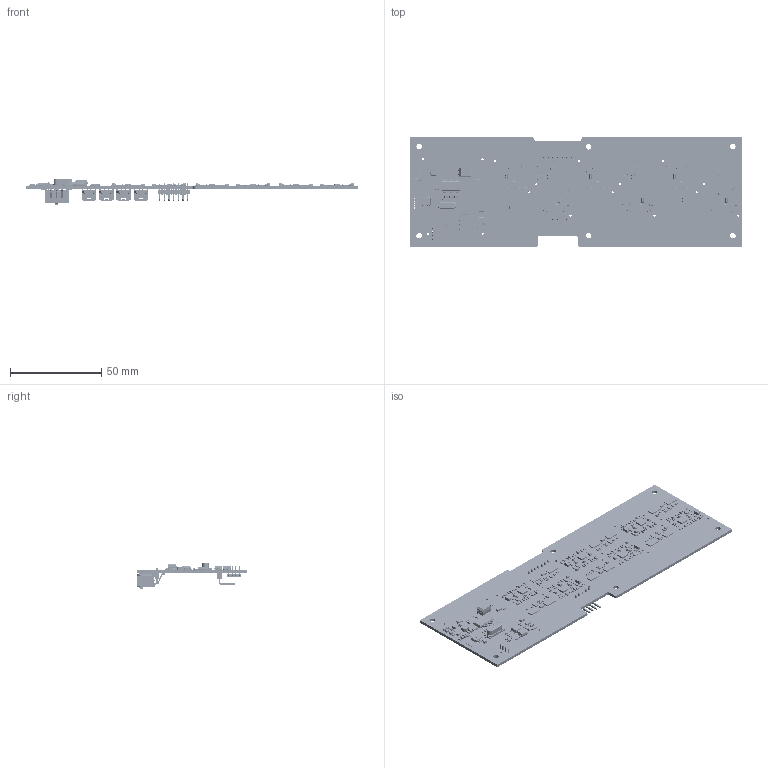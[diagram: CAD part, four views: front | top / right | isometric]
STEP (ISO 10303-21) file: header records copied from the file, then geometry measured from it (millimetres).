
FILE_DESCRIPTION(('Open CASCADE Model'),'2;1');
FILE_NAME('Open CASCADE Shape Model','2021-08-09T16:07:33',('Author'),( 'Open CASCADE'),'Open CASCADE STEP processor 6.8','Open CASCADE 6.8' ,'Unknown');
FILE_SCHEMA(('AUTOMOTIVE_DESIGN { 1 0 10303 214 1 1 1 1 }'));
Length unit declared in the file: millimetre
Products named in the file (388): PCB; Board; Open CASCADE STEP translator 6.8 1.1.1; X1; User_Library-ECS-240-20-5PX-TR; C2; C0603; C1; J8; 5023520200; Open CASCADE STEP translator 6.8 1.5.1.1; Open CASCADE STEP translator 6.8 1.5.1.2; J7; J6; J5; D1102; LED_Red_0805; D1101; LED_Green_0805; U301; SOIC8; C301; C0805; C305; C306; C307; C308; C314; C315; C316; C317; C318; C319; C320; C321; C322; C323; C324; D301; SOT23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
Assembly tree (679 placements, depth 8):
  PCB
    Board
      Open CASCADE STEP translator 6.8 1.1.1
    X1
      User_Library-ECS-240-20-5PX-TR
    C2
      C0603
    C1
      C0603
    J8
      5023520200
        Open CASCADE STEP translator 6.8 1.5.1.1
        Open CASCADE STEP translator 6.8 1.5.1.2
    J7
      5023520200
        Open CASCADE STEP translator 6.8 1.5.1.1
        Open CASCADE STEP translator 6.8 1.5.1.2
    J6
      5023520200
        Open CASCADE STEP translator 6.8 1.5.1.1
        Open CASCADE STEP translator 6.8 1.5.1.2
    J5
      5023520200
        Open CASCADE STEP translator 6.8 1.5.1.1
        Open CASCADE STEP translator 6.8 1.5.1.2
    D1102
      LED_Red_0805
    D1101
      LED_Green_0805
    U301
      SOIC8
    C301
      C0805
    C305
      C0805
    C306
      C0603
    C307
      C0603
    C308
      C0603
    C314
      C0805
    C315
      C0603
    C316
      C0603
    C317
      C0603
    C318
      C0805
    C319
      C0805
    C320
      C0805
    C321
      C0805
    C322
      C0805
    C323
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Bounding box: 182 x 60 x 14.73 mm (x, y, z)
Volume: 20346.8 mm3; surface area: 32623.4 mm2
Topology: 989 solids, 992 shells, 38347 faces, 93802 edges, 55769 vertices
Faces by surface type: plane 19664, cylinder 9613, bspline 5672, sphere 3380, cone 12, torus 6
Full cylindrical faces by diameter (mm): 0.6 x5, 0.8 x4, 1 x12, 1.2 x16, 3 x6
Entity records: 154643 total; most frequent: CARTESIAN_POINT 38318, ORIENTED_EDGE 19338, DIRECTION 18724, EDGE_CURVE 9669, LINE 7636, VECTOR 7636, VERTEX_POINT 6162, AXIS2_PLACEMENT_3D 5544
